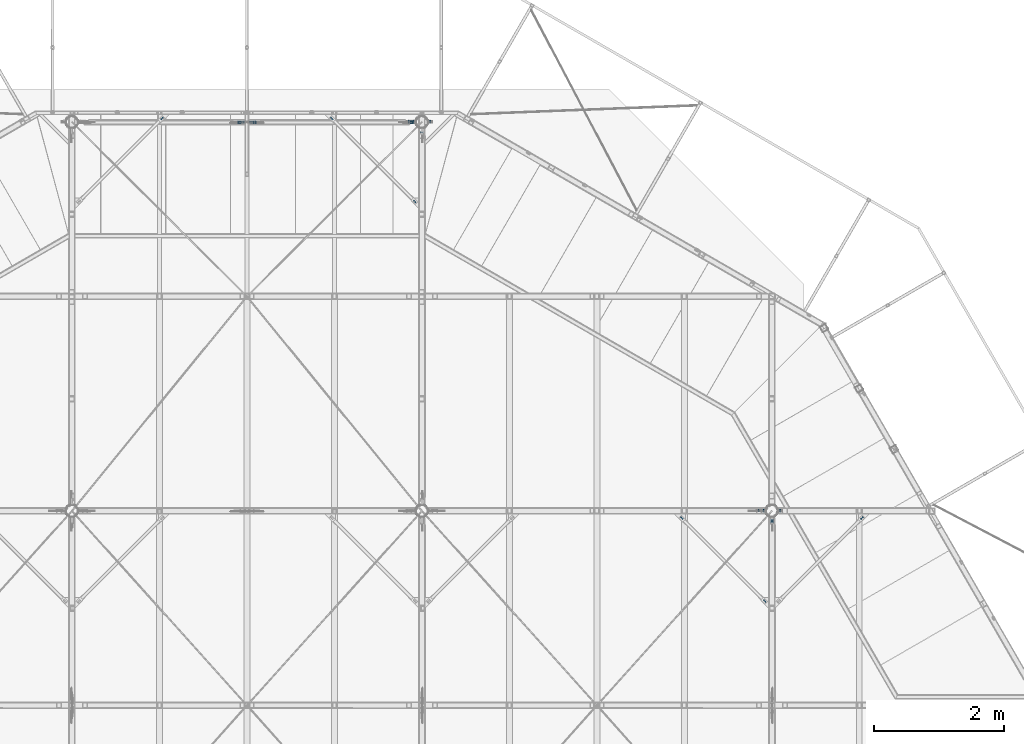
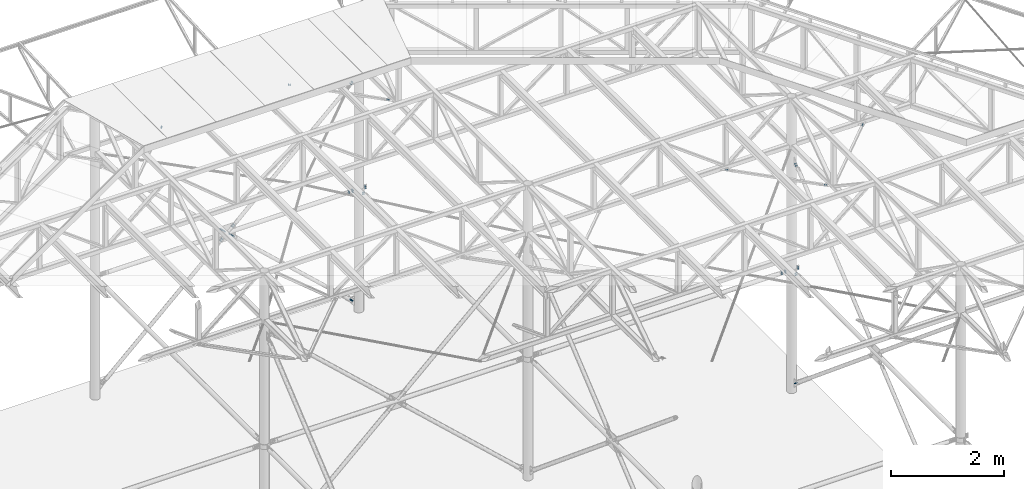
# One storey, part 124 of 132: 27 mechanical fasteners, 19 elements without a shape of their own.
"""IFC2X3 building model written with IfcOpenShell, lengths in millimetres."""

from ifc_helpers import new_model, si_unit, frame, origin_with_axes, origin_2d_with_axis, place, context, subcontext, project, spatial, polyline, circle, outline, extrude, source, transform, mapped, material, type_object, element, aggregate, save


model = new_model("IFC2X3")

# Units and contexts
model_context = context("Model", 3, precision=1e-05, world=origin_with_axes())
body_context = subcontext(model_context, "Body", "Model", "MODEL_VIEW")
ifc_project = project(units=[si_unit("LENGTHUNIT", "METRE", prefix="MILLI"), si_unit("AREAUNIT", "SQUARE_METRE"), si_unit("VOLUMEUNIT", "CUBIC_METRE"), si_unit("MASSUNIT", "GRAM", prefix="KILO"), si_unit("TIMEUNIT", "SECOND"), si_unit("PLANEANGLEUNIT", "RADIAN"), si_unit("SOLIDANGLEUNIT", "STERADIAN"), si_unit("THERMODYNAMICTEMPERATUREUNIT", "DEGREE_CELSIUS"), si_unit("LUMINOUSINTENSITYUNIT", "LUMEN")], contexts=[model_context])

# Site, building, storey
site_placement = place(None, origin_with_axes())
site = spatial("IfcSite", under=ifc_project, at=site_placement, Name="Budowa", CompositionType="ELEMENT")
building_placement = place(site_placement, origin_with_axes())
building = spatial("IfcBuilding", under=site, at=building_placement, Name="Undefined", CompositionType="ELEMENT")
storey_placement = place(building_placement, origin_with_axes())
storey = spatial("IfcBuildingStorey", under=building, at=storey_placement, Name="Undefined", CompositionType="ELEMENT", Elevation=0.0)

# Assembly, mechanical fastener
assembly_1_placement = place(storey_placement, origin_with_axes())
assembly_1 = element("IfcElementAssembly", 1, at=assembly_1_placement, inside=storey, Name="Steel Assembly", AssemblyPlace="NOTDEFINED", PredefinedType="RIGID_FRAME")
ifc_material = material(Name="Undefined")
discrete_accessory_type = type_object("IfcDiscreteAccessoryType", Name="Bolt assembly")
shared_shape_1 = source(origin_with_axes(), body_context, "Body", "SweptSolid", [
    extrude(circle(Radius=9.5, at=origin_2d_with_axis()), frame((0.0, -2.10099750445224, 0.0), z_axis=(0.0, 1.0, 0.0), x_axis=(1.0, 0.0, 0.0)), (0.0, 0.0, 1.0), 8.1),
    extrude(circle(Radius=9.5, at=origin_2d_with_axis()), frame((0.0, -9.9, 0.0), z_axis=(0.0, 1.0, 0.0), x_axis=(1.0, 0.0, 0.0)), (0.0, 0.0, 1.0), 8.0),
    extrude(outline(polyline([(13.85640646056, 0.0), (6.92820323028, 12.0000000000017), (-6.92820323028, 12.0000000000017), (-13.85640646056, 0.0), (-6.92820323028, -12.0000000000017), (6.92820323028, -12.0000000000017), (13.85640646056, 0.0)])), frame((0.0, -23.0, 0.0), z_axis=(0.0, 1.0, 0.0), x_axis=(1.0, 0.0, 0.0)), (0.0, 0.0, 1.0), 10.0),
    extrude(circle(Radius=8.0, at=origin_2d_with_axis()), frame((0.0, -13.0, 0.0), z_axis=(0.0, 1.0, 0.0), x_axis=(1.0, 0.0, 0.0)), (0.0, 0.0, 1.0), 45.0),
    extrude(circle(Radius=15.0, at=origin_2d_with_axis()), frame((0.0, -13.0, 0.0), z_axis=(0.0, 1.0, 0.0), x_axis=(1.0, 0.0, 0.0)), (0.0, 0.0, 1.0), 3.0),
    extrude(circle(Radius=15.0, at=origin_2d_with_axis()), frame((0.0, 5.99900249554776, 0.0), z_axis=(0.0, 1.0, 0.0), x_axis=(1.0, 0.0, 0.0)), (0.0, 0.0, 1.0), 3.0),
    extrude(outline(polyline([(13.85640646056, 0.0), (6.92820323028, 12.0000000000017), (-6.92820323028, 12.0000000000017), (-13.85640646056, 0.0), (-6.92820323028, -12.0000000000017), (6.92820323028, -12.0000000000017), (13.85640646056, 0.0)])), frame((0.0, 8.99900249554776, 0.0), z_axis=(0.0, 1.0, 0.0), x_axis=(1.0, 0.0, 0.0)), (0.0, 0.0, 1.0), 13.0),
])
mechanical_fastener_1_placement = place(assembly_1_placement, frame((14684.3261492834, 23997.9999976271, 12480.2077566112), z_axis=(0.67855182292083, 0.0, -0.734552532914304), x_axis=(-0.734552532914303, 0.0, -0.67855182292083)))
mechanical_fastener_1 = element("IfcMechanicalFastener", 2, at=mechanical_fastener_1_placement, type_object=discrete_accessory_type, material=ifc_material, Name="Bolt assembly", NominalDiameter=16.0, NominalLength=45.0, context=body_context, shape_type="MappedRepresentation", body=[
    mapped(shared_shape_1, transform((0.0, 0.0, 0.0))),
    mapped(shared_shape_1, transform((40.0000000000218, 0.0, -1.81898940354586e-12))),
])
aggregate(assembly_1, [mechanical_fastener_1])

assembly_2_placement = place(storey_placement, origin_with_axes())
assembly_2 = element("IfcElementAssembly", 3, at=assembly_2_placement, inside=storey, Name="Steel Assembly", AssemblyPlace="NOTDEFINED", PredefinedType="RIGID_FRAME")
mechanical_fastener_2_placement = place(assembly_2_placement, frame((14684.3261497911, 23997.9999973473, 7751.7929987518), z_axis=(-0.67855182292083, 0.0, -0.734552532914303), x_axis=(-0.734552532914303, 0.0, 0.67855182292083)))
mechanical_fastener_2 = element("IfcMechanicalFastener", 4, at=mechanical_fastener_2_placement, type_object=discrete_accessory_type, material=ifc_material, Name="Bolt assembly", NominalDiameter=16.0, NominalLength=45.0, context=body_context, shape_type="MappedRepresentation", body=[
    mapped(shared_shape_1, transform((0.0, 0.0, 0.0))),
    mapped(shared_shape_1, transform((40.0000000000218, 0.0, -1.81898940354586e-12))),
])

assembly_3_placement = place(storey_placement, origin_with_axes())
assembly_3 = element("IfcElementAssembly", 5, at=assembly_3_placement, inside=storey, Name="Steel Assembly", AssemblyPlace="NOTDEFINED", PredefinedType="RIGID_FRAME")
shared_shape_2 = source(origin_with_axes(), body_context, "Body", "SweptSolid", [
    extrude(circle(Radius=9.5, at=origin_2d_with_axis()), frame((0.0, -2.1, 0.0), z_axis=(0.0, 1.0, 0.0), x_axis=(1.0, 0.0, 0.0)), (0.0, 0.0, 1.0), 8.1),
    extrude(circle(Radius=9.5, at=origin_2d_with_axis()), frame((0.0, -11.9, 0.0), z_axis=(0.0, 1.0, 0.0), x_axis=(1.0, 0.0, 0.0)), (0.0, 0.0, 1.0), 8.0),
    extrude(outline(polyline([(13.85640646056, 0.0), (6.92820323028, 12.0000000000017), (-6.92820323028, 12.0000000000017), (-13.85640646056, 0.0), (-6.92820323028, -12.0000000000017), (6.92820323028, -12.0000000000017), (13.85640646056, 0.0)])), frame((0.0, -25.0, 0.0), z_axis=(0.0, 1.0, 0.0), x_axis=(1.0, 0.0, 0.0)), (0.0, 0.0, 1.0), 10.0),
    extrude(circle(Radius=8.0, at=origin_2d_with_axis()), frame((0.0, -15.0, 0.0), z_axis=(0.0, 1.0, 0.0), x_axis=(1.0, 0.0, 0.0)), (0.0, 0.0, 1.0), 45.0),
    extrude(circle(Radius=15.0, at=origin_2d_with_axis()), frame((0.0, -15.0, 0.0), z_axis=(0.0, 1.0, 0.0), x_axis=(1.0, 0.0, 0.0)), (0.0, 0.0, 1.0), 3.0),
    extrude(circle(Radius=15.0, at=origin_2d_with_axis()), frame((0.0, 6.0, 0.0), z_axis=(0.0, 1.0, 0.0), x_axis=(1.0, 0.0, 0.0)), (0.0, 0.0, 1.0), 3.0),
    extrude(outline(polyline([(13.85640646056, 0.0), (6.92820323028, 12.0000000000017), (-6.92820323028, 12.0000000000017), (-13.85640646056, 0.0), (-6.92820323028, -12.0000000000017), (6.92820323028, -12.0000000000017), (13.85640646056, 0.0)])), frame((0.0, 9.0, 0.0), z_axis=(0.0, 1.0, 0.0), x_axis=(1.0, 0.0, 0.0)), (0.0, 0.0, 1.0), 13.0),
])
mechanical_fastener_3_placement = place(assembly_3_placement, frame((14684.3261492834, 23997.9999976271, 12480.2077566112), z_axis=(0.67855182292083, 0.0, -0.734552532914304), x_axis=(-0.734552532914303, 0.0, -0.67855182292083)))
mechanical_fastener_3 = element("IfcMechanicalFastener", 6, at=mechanical_fastener_3_placement, type_object=discrete_accessory_type, material=ifc_material, Name="Bolt assembly", NominalDiameter=16.0, NominalLength=45.0, context=body_context, shape_type="MappedRepresentation", body=[
    mapped(shared_shape_2, transform((0.0, 0.0, 0.0))),
    mapped(shared_shape_2, transform((40.0000000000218, 0.0, -1.81898940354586e-12))),
])

assembly_4_placement = place(storey_placement, origin_with_axes())
assembly_4 = element("IfcElementAssembly", 7, at=assembly_4_placement, inside=storey, Name="Steel Assembly", AssemblyPlace="NOTDEFINED", PredefinedType="RIGID_FRAME")
mechanical_fastener_4_placement = place(assembly_4_placement, frame((14684.3261497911, 23997.9999973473, 7751.7929987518), z_axis=(-0.67855182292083, 0.0, -0.734552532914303), x_axis=(-0.734552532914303, 0.0, 0.67855182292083)))
mechanical_fastener_4 = element("IfcMechanicalFastener", 8, at=mechanical_fastener_4_placement, type_object=discrete_accessory_type, material=ifc_material, Name="Bolt assembly", NominalDiameter=16.0, NominalLength=45.0, context=body_context, shape_type="MappedRepresentation", body=[
    mapped(shared_shape_2, transform((0.0, 0.0, 0.0))),
    mapped(shared_shape_2, transform((40.0000000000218, 0.0, -1.81898940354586e-12))),
])

assembly_5_placement = place(storey_placement, origin_with_axes())
assembly_5 = element("IfcElementAssembly", 9, at=assembly_5_placement, inside=storey, Name="Steel Assembly", AssemblyPlace="NOTDEFINED", PredefinedType="RIGID_FRAME")
shared_shape_3 = source(origin_with_axes(), body_context, "Body", "SweptSolid", [
    extrude(circle(Radius=9.5, at=origin_2d_with_axis()), frame((0.0, -4.09999999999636, 0.0), z_axis=(0.0, 1.0, 0.0), x_axis=(1.0, 0.0, 0.0)), (0.0, 0.0, 1.0), 8.1),
    extrude(circle(Radius=9.5, at=origin_2d_with_axis()), frame((0.0, -11.9, 0.0), z_axis=(0.0, 1.0, 0.0), x_axis=(1.0, 0.0, 0.0)), (0.0, 0.0, 1.0), 8.0),
    extrude(outline(polyline([(13.85640646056, 0.0), (6.92820323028, 12.0000000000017), (-6.92820323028, 12.0000000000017), (-13.85640646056, 0.0), (-6.92820323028, -12.0000000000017), (6.92820323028, -12.0000000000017), (13.85640646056, 0.0)])), frame((0.0, -25.0, 0.0), z_axis=(0.0, 1.0, 0.0), x_axis=(1.0, 0.0, 0.0)), (0.0, 0.0, 1.0), 10.0),
    extrude(circle(Radius=8.0, at=origin_2d_with_axis()), frame((0.0, -15.0, 0.0), z_axis=(0.0, 1.0, 0.0), x_axis=(1.0, 0.0, 0.0)), (0.0, 0.0, 1.0), 40.0),
    extrude(circle(Radius=15.0, at=origin_2d_with_axis()), frame((0.0, -15.0, 0.0), z_axis=(0.0, 1.0, 0.0), x_axis=(1.0, 0.0, 0.0)), (0.0, 0.0, 1.0), 3.0),
    extrude(circle(Radius=15.0, at=origin_2d_with_axis()), frame((0.0, 4.0, 0.0), z_axis=(0.0, 1.0, 0.0), x_axis=(1.0, 0.0, 0.0)), (0.0, 0.0, 1.0), 3.0),
    extrude(outline(polyline([(13.85640646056, 0.0), (6.92820323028, 12.0000000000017), (-6.92820323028, 12.0000000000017), (-13.85640646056, 0.0), (-6.92820323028, -12.0000000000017), (6.92820323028, -12.0000000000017), (13.85640646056, 0.0)])), frame((0.0, 7.0, 0.0), z_axis=(0.0, 1.0, 0.0), x_axis=(1.0, 0.0, 0.0)), (0.0, 0.0, 1.0), 13.0),
])
mechanical_fastener_5_placement = place(assembly_5_placement, frame((12018.9139021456, 23997.9999971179, 10018.0008231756), z_axis=(0.67855182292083, 0.0, -0.734552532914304), x_axis=(-0.734552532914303, 0.0, -0.67855182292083)))
mechanical_fastener_5 = element("IfcMechanicalFastener", 10, at=mechanical_fastener_5_placement, type_object=discrete_accessory_type, material=ifc_material, Name="Bolt assembly", NominalDiameter=16.0, NominalLength=40.0, context=body_context, shape_type="MappedRepresentation", body=[
    mapped(shared_shape_3, transform((0.0, 0.0, 0.0))),
    mapped(shared_shape_3, transform((40.0000000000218, 0.0, -1.81898940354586e-12))),
])
aggregate(assembly_5, [mechanical_fastener_5])

# Mechanical fastener
mechanical_fastener_6_placement = place(assembly_4_placement, frame((12231.0887636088, 23997.9999971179, 10018.0008271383), z_axis=(0.678551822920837, 0.0, 0.734552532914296), x_axis=(0.734552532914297, 0.0, -0.678551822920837)))
mechanical_fastener_6 = element("IfcMechanicalFastener", 11, at=mechanical_fastener_6_placement, type_object=discrete_accessory_type, material=ifc_material, Name="Bolt assembly", NominalDiameter=16.0, NominalLength=40.0, context=body_context, shape_type="MappedRepresentation", body=[
    mapped(shared_shape_3, transform((0.0, 0.0, 0.0))),
    mapped(shared_shape_3, transform((40.0000000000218, 0.0, -1.81898940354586e-12))),
])

aggregate(assembly_4, [mechanical_fastener_4, mechanical_fastener_6])

# Assembly, mechanical fastener
assembly_6_placement = place(storey_placement, origin_with_axes())
assembly_6 = element("IfcElementAssembly", 12, at=assembly_6_placement, inside=storey, Name="Steel Assembly", AssemblyPlace="NOTDEFINED", PredefinedType="RIGID_FRAME")
mechanical_fastener_7_placement = place(assembly_6_placement, frame((12018.913903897, 23997.9999968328, 10213.9999310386), z_axis=(-0.67855182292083, 0.0, -0.734552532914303), x_axis=(-0.734552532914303, 0.0, 0.67855182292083)))
mechanical_fastener_7 = element("IfcMechanicalFastener", 13, at=mechanical_fastener_7_placement, type_object=discrete_accessory_type, material=ifc_material, Name="Bolt assembly", NominalDiameter=16.0, NominalLength=40.0, context=body_context, shape_type="MappedRepresentation", body=[
    mapped(shared_shape_3, transform((0.0, 0.0, 0.0))),
    mapped(shared_shape_3, transform((40.0000000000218, 0.0, -1.81898940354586e-12))),
])
aggregate(assembly_6, [mechanical_fastener_7])

# Mechanical fastener
mechanical_fastener_8_placement = place(assembly_3_placement, frame((12231.0887653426, 23997.9999968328, 10213.9999302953), z_axis=(-0.678551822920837, 0.0, 0.734552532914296), x_axis=(0.734552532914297, 0.0, 0.678551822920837)))
mechanical_fastener_8 = element("IfcMechanicalFastener", 14, at=mechanical_fastener_8_placement, type_object=discrete_accessory_type, material=ifc_material, Name="Bolt assembly", NominalDiameter=16.0, NominalLength=40.0, context=body_context, shape_type="MappedRepresentation", body=[
    mapped(shared_shape_3, transform((0.0, 0.0, 0.0))),
    mapped(shared_shape_3, transform((40.0000000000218, 0.0, -1.81898940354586e-12))),
])

aggregate(assembly_3, [mechanical_fastener_3, mechanical_fastener_8])

# Assembly, mechanical fastener
assembly_7_placement = place(storey_placement, origin_with_axes())
assembly_7 = element("IfcElementAssembly", 15, at=assembly_7_placement, inside=storey, Name="Steel Assembly", AssemblyPlace="NOTDEFINED", PredefinedType="RIGID_FRAME")
shared_shape_4 = source(origin_with_axes(), body_context, "Body", "SweptSolid", [
    extrude(circle(Radius=9.0, at=origin_2d_with_axis()), frame((0.0, 0.0999999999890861, 0.0), z_axis=(0.0, 1.0, 0.0), x_axis=(1.0, 0.0, 0.0)), (0.0, 0.0, 1.0), 8.0),
    extrude(circle(Radius=9.0, at=origin_2d_with_axis()), frame((0.0, 11.9000000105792, 0.0), z_axis=(0.0, 1.0, 0.0), x_axis=(1.0, 0.0, 0.0)), (0.0, 0.0, 1.0), 8.1),
    extrude(outline(polyline([(13.85640646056, 0.0), (6.92820323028, 12.0000000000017), (-6.92820323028, 12.0000000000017), (-13.85640646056, 0.0), (-6.92820323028, -12.0000000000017), (6.92820323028, -12.0000000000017), (13.85640646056, 0.0)])), frame((0.0, -13.0, 0.0), z_axis=(0.0, 1.0, 0.0), x_axis=(1.0, 0.0, 0.0)), (0.0, 0.0, 1.0), 10.0),
    extrude(circle(Radius=8.0, at=origin_2d_with_axis()), frame((0.0, -2.99999999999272, 0.0), z_axis=(0.0, 1.0, 0.0), x_axis=(1.0, 0.0, 0.0)), (0.0, 0.0, 1.0), 45.0),
    extrude(circle(Radius=15.0, at=origin_2d_with_axis()), frame((0.0, -2.99999999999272, 0.0), z_axis=(0.0, 1.0, 0.0), x_axis=(1.0, 0.0, 0.0)), (0.0, 0.0, 1.0), 3.0),
    extrude(circle(Radius=15.0, at=origin_2d_with_axis()), frame((0.0, 20.0000000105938, 0.0), z_axis=(0.0, 1.0, 0.0), x_axis=(1.0, 0.0, 0.0)), (0.0, 0.0, 1.0), 3.0),
    extrude(outline(polyline([(13.85640646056, 0.0), (6.92820323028, 12.0000000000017), (-6.92820323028, 12.0000000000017), (-13.85640646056, 0.0), (-6.92820323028, -12.0000000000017), (6.92820323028, -12.0000000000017), (13.85640646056, 0.0)])), frame((0.0, 23.0000000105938, 0.0), z_axis=(0.0, 1.0, 0.0), x_axis=(1.0, 0.0, 0.0)), (0.0, 0.0, 1.0), 13.0),
])
mechanical_fastener_9_placement = place(assembly_7_placement, frame((14953.1367126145, 23990.000000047, 10096.0003779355), z_axis=(-1.0, 0.0, 0.0), x_axis=(0.0, 0.0, 1.0)))
mechanical_fastener_9 = element("IfcMechanicalFastener", 16, at=mechanical_fastener_9_placement, type_object=discrete_accessory_type, material=ifc_material, Name="Bolt assembly", NominalDiameter=16.0, NominalLength=45.0, context=body_context, shape_type="MappedRepresentation", body=[
    mapped(shared_shape_4, transform((0.0, 0.0, 0.0))),
    mapped(shared_shape_4, transform((40.0000000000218, 0.0, -1.81898940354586e-12))),
])

assembly_8_placement = place(storey_placement, origin_with_axes())
assembly_8 = element("IfcElementAssembly", 17, at=assembly_8_placement, inside=storey, Name="Steel Assembly", AssemblyPlace="NOTDEFINED", PredefinedType="RIGID_FRAME")
mechanical_fastener_10_placement = place(assembly_8_placement, frame((20353.1367126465, 17990.000000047, 10096.0003779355), z_axis=(-1.0, 0.0, 0.0), x_axis=(0.0, 0.0, 1.0)))
mechanical_fastener_10 = element("IfcMechanicalFastener", 18, at=mechanical_fastener_10_placement, type_object=discrete_accessory_type, material=ifc_material, Name="Bolt assembly", NominalDiameter=16.0, NominalLength=45.0, context=body_context, shape_type="MappedRepresentation", body=[
    mapped(shared_shape_4, transform((0.0, 0.0, 0.0))),
    mapped(shared_shape_4, transform((40.0000000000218, 0.0, -1.81898940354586e-12))),
])

assembly_9_placement = place(storey_placement, origin_with_axes())
assembly_9 = element("IfcElementAssembly", 19, at=assembly_9_placement, inside=storey, Name="Steel Assembly", AssemblyPlace="NOTDEFINED", PredefinedType="RIGID_FRAME")
shared_shape_5 = source(origin_with_axes(), body_context, "Body", "SweptSolid", [
    extrude(circle(Radius=9.0, at=origin_2d_with_axis()), frame((0.0, -4.09999999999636, 0.0), z_axis=(0.0, 1.0, 0.0), x_axis=(1.0, 0.0, 0.0)), (0.0, 0.0, 1.0), 8.1),
    extrude(circle(Radius=9.0, at=origin_2d_with_axis()), frame((0.0, -11.9, 0.0), z_axis=(0.0, 1.0, 0.0), x_axis=(1.0, 0.0, 0.0)), (0.0, 0.0, 1.0), 8.0),
    extrude(outline(polyline([(13.85640646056, 0.0), (6.92820323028, 12.0000000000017), (-6.92820323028, 12.0000000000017), (-13.85640646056, 0.0), (-6.92820323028, -12.0000000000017), (6.92820323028, -12.0000000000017), (13.85640646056, 0.0)])), frame((0.0, -25.0, 0.0), z_axis=(0.0, 1.0, 0.0), x_axis=(1.0, 0.0, 0.0)), (0.0, 0.0, 1.0), 10.0),
    extrude(circle(Radius=8.0, at=origin_2d_with_axis()), frame((0.0, -15.0, 0.0), z_axis=(0.0, 1.0, 0.0), x_axis=(1.0, 0.0, 0.0)), (0.0, 0.0, 1.0), 40.0),
    extrude(circle(Radius=15.0, at=origin_2d_with_axis()), frame((0.0, -15.0, 0.0), z_axis=(0.0, 1.0, 0.0), x_axis=(1.0, 0.0, 0.0)), (0.0, 0.0, 1.0), 3.0),
    extrude(circle(Radius=15.0, at=origin_2d_with_axis()), frame((0.0, 4.0, 0.0), z_axis=(0.0, 1.0, 0.0), x_axis=(1.0, 0.0, 0.0)), (0.0, 0.0, 1.0), 3.0),
    extrude(outline(polyline([(13.85640646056, 0.0), (6.92820323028, 12.0000000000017), (-6.92820323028, 12.0000000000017), (-13.85640646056, 0.0), (-6.92820323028, -12.0000000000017), (6.92820323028, -12.0000000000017), (13.85640646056, 0.0)])), frame((0.0, 7.0, 0.0), z_axis=(0.0, 1.0, 0.0), x_axis=(1.0, 0.0, 0.0)), (0.0, 0.0, 1.0), 13.0),
])
mechanical_fastener_11_placement = place(assembly_9_placement, frame((14824.9999972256, 23842.0920947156, 10116.0003779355), z_axis=(0.0, 0.0, -1.0), x_axis=(0.0, -1.0, 0.0)))
mechanical_fastener_11 = element("IfcMechanicalFastener", 20, at=mechanical_fastener_11_placement, type_object=discrete_accessory_type, material=ifc_material, Name="Bolt assembly", NominalDiameter=16.0, NominalLength=40.0, context=body_context, shape_type="MappedRepresentation", body=[
    mapped(shared_shape_5, transform((0.0, 0.0, -20.0))),
    mapped(shared_shape_5, transform((0.0, 0.0, 20.0))),
])
aggregate(assembly_9, [mechanical_fastener_11])

assembly_10_placement = place(storey_placement, origin_with_axes())
assembly_10 = element("IfcElementAssembly", 21, at=assembly_10_placement, inside=storey, Name="Steel Assembly", AssemblyPlace="NOTDEFINED", PredefinedType="RIGID_FRAME")
mechanical_fastener_12_placement = place(assembly_10_placement, frame((20224.9999972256, 17842.0920947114, 10116.0003779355), z_axis=(0.0, 0.0, -1.0), x_axis=(0.0, -1.0, 0.0)))
mechanical_fastener_12 = element("IfcMechanicalFastener", 22, at=mechanical_fastener_12_placement, type_object=discrete_accessory_type, material=ifc_material, Name="Bolt assembly", NominalDiameter=16.0, NominalLength=40.0, context=body_context, shape_type="MappedRepresentation", body=[
    mapped(shared_shape_5, transform((0.0, 0.0, -20.0))),
    mapped(shared_shape_5, transform((0.0, 0.0, 20.0))),
])
aggregate(assembly_10, [mechanical_fastener_12])

assembly_11_placement = place(storey_placement, origin_with_axes())
assembly_11 = element("IfcElementAssembly", 23, at=assembly_11_placement, inside=storey, Name="Steel Assembly", AssemblyPlace="NOTDEFINED", PredefinedType="RIGID_FRAME")
mechanical_fastener_13_placement = place(assembly_11_placement, frame((20225.0000000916, 17859.8220601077, 7739.23218545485), z_axis=(0.0, -0.63916553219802, -0.769069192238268), x_axis=(0.0, -0.76906919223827, 0.639165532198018)))
mechanical_fastener_13 = element("IfcMechanicalFastener", 24, at=mechanical_fastener_13_placement, type_object=discrete_accessory_type, material=ifc_material, Name="Bolt assembly", NominalDiameter=16.0, NominalLength=40.0, context=body_context, shape_type="MappedRepresentation", body=[
    mapped(shared_shape_5, transform((0.0, 0.0, 0.0))),
    mapped(shared_shape_5, transform((40.0000000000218, 0.0, -1.81898940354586e-12))),
])
aggregate(assembly_11, [mechanical_fastener_13])

assembly_12_placement = place(storey_placement, origin_with_axes())
assembly_12 = element("IfcElementAssembly", 25, at=assembly_12_placement, inside=storey, Name="Steel Assembly", AssemblyPlace="NOTDEFINED", PredefinedType="RIGID_FRAME")
mechanical_fastener_14_placement = place(assembly_12_placement, frame((20225.0000000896, 17859.822059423, 12492.7676156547), z_axis=(0.0, 0.639165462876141, -0.769069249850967), x_axis=(0.0, -0.769069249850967, -0.639165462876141)))
mechanical_fastener_14 = element("IfcMechanicalFastener", 26, at=mechanical_fastener_14_placement, type_object=discrete_accessory_type, material=ifc_material, Name="Bolt assembly", NominalDiameter=16.0, NominalLength=40.0, context=body_context, shape_type="MappedRepresentation", body=[
    mapped(shared_shape_5, transform((0.0, 0.0, 0.0))),
    mapped(shared_shape_5, transform((40.0000000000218, 0.0, -1.81898940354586e-12))),
])
aggregate(assembly_12, [mechanical_fastener_14])

# Mechanical fastener
mechanical_fastener_15_placement = place(assembly_2_placement, frame((14684.3261497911, 23999.9999973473, 7751.79299875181), z_axis=(-0.67855182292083, 0.0, -0.734552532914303), x_axis=(-0.734552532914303, 0.0, 0.67855182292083)))
mechanical_fastener_15 = element("IfcMechanicalFastener", 27, at=mechanical_fastener_15_placement, type_object=discrete_accessory_type, material=ifc_material, Name="Bolt assembly", NominalDiameter=16.0, NominalLength=40.0, context=body_context, shape_type="MappedRepresentation", body=[
    mapped(shared_shape_5, transform((0.0, 0.0, 0.0))),
    mapped(shared_shape_5, transform((40.0000000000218, 0.0, -1.81898940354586e-12))),
])

mechanical_fastener_16_placement = place(assembly_2_placement, frame((12174.3756759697, 23999.9999977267, 10070.3902305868), z_axis=(0.678551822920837, 0.0, 0.734552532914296), x_axis=(0.734552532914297, 0.0, -0.678551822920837)))
mechanical_fastener_16 = element("IfcMechanicalFastener", 28, at=mechanical_fastener_16_placement, type_object=discrete_accessory_type, material=ifc_material, Name="Bolt assembly", NominalDiameter=16.0, NominalLength=40.0, context=body_context, shape_type="MappedRepresentation", body=[
    mapped(shared_shape_5, transform((0.0, 0.0, 0.0))),
    mapped(shared_shape_5, transform((40.0000000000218, 0.0, -1.81898940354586e-12))),
])

aggregate(assembly_2, [mechanical_fastener_2, mechanical_fastener_15, mechanical_fastener_16])

# Assembly, mechanical fastener
assembly_13_placement = place(storey_placement, origin_with_axes())
assembly_13 = element("IfcElementAssembly", 29, at=assembly_13_placement, inside=storey, Name="Steel Assembly", AssemblyPlace="NOTDEFINED", PredefinedType="RIGID_FRAME")
mechanical_fastener_17_placement = place(assembly_13_placement, frame((12075.6269936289, 23999.9999975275, 10161.6105256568), z_axis=(-0.67855182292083, 0.0, -0.734552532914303), x_axis=(-0.734552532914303, 0.0, 0.67855182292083)))
mechanical_fastener_17 = element("IfcMechanicalFastener", 30, at=mechanical_fastener_17_placement, type_object=discrete_accessory_type, material=ifc_material, Name="Bolt assembly", NominalDiameter=16.0, NominalLength=40.0, context=body_context, shape_type="MappedRepresentation", body=[
    mapped(shared_shape_5, transform((0.0, 0.0, 0.0))),
    mapped(shared_shape_5, transform((40.0000000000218, 0.0, -1.81898940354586e-12))),
])
aggregate(assembly_13, [mechanical_fastener_17])

# Mechanical fastener
shared_shape_6 = source(origin_with_axes(), body_context, "Body", "SweptSolid", [
    extrude(circle(Radius=9.0, at=origin_2d_with_axis()), frame((0.0, 0.0999999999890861, 0.0), z_axis=(0.0, 1.0, 0.0), x_axis=(1.0, 0.0, 0.0)), (0.0, 0.0, 1.0), 8.0),
    extrude(circle(Radius=9.0, at=origin_2d_with_axis()), frame((0.0, 7.9000007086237, 0.0), z_axis=(0.0, 1.0, 0.0), x_axis=(1.0, 0.0, 0.0)), (0.0, 0.0, 1.0), 8.1),
    extrude(outline(polyline([(13.85640646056, 0.0), (6.92820323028, 12.0000000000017), (-6.92820323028, 12.0000000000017), (-13.85640646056, 0.0), (-6.92820323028, -12.0000000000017), (6.92820323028, -12.0000000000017), (13.85640646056, 0.0)])), frame((0.0, -13.0, 0.0), z_axis=(0.0, 1.0, 0.0), x_axis=(1.0, 0.0, 0.0)), (0.0, 0.0, 1.0), 10.0),
    extrude(circle(Radius=8.0, at=origin_2d_with_axis()), frame((0.0, -2.99999999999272, 0.0), z_axis=(0.0, 1.0, 0.0), x_axis=(1.0, 0.0, 0.0)), (0.0, 0.0, 1.0), 40.0),
    extrude(circle(Radius=15.0, at=origin_2d_with_axis()), frame((0.0, -2.99999999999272, 0.0), z_axis=(0.0, 1.0, 0.0), x_axis=(1.0, 0.0, 0.0)), (0.0, 0.0, 1.0), 3.0),
    extrude(circle(Radius=15.0, at=origin_2d_with_axis()), frame((0.0, 16.0000007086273, 0.0), z_axis=(0.0, 1.0, 0.0), x_axis=(1.0, 0.0, 0.0)), (0.0, 0.0, 1.0), 3.0),
    extrude(outline(polyline([(13.85640646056, 0.0), (6.92820323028, 12.0000000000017), (-6.92820323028, 12.0000000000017), (-13.85640646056, 0.0), (-6.92820323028, -12.0000000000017), (6.92820323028, -12.0000000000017), (13.85640646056, 0.0)])), frame((0.0, 19.0000007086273, 0.0), z_axis=(0.0, 1.0, 0.0), x_axis=(1.0, 0.0, 0.0)), (0.0, 0.0, 1.0), 13.0),
])
mechanical_fastener_18_placement = place(assembly_7_placement, frame((14621.863305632, 23993.9999994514, 10096.0003779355), z_axis=(-1.0, 0.0, 0.0), x_axis=(0.0, 0.0, 1.0)))
mechanical_fastener_18 = element("IfcMechanicalFastener", 31, at=mechanical_fastener_18_placement, type_object=discrete_accessory_type, material=ifc_material, Name="Bolt assembly", NominalDiameter=16.0, NominalLength=40.0, context=body_context, shape_type="MappedRepresentation", body=[
    mapped(shared_shape_6, transform((0.0, 0.0, 0.0))),
    mapped(shared_shape_6, transform((40.0000000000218, 0.0, -1.81898940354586e-12))),
])

aggregate(assembly_7, [mechanical_fastener_18, mechanical_fastener_9])

mechanical_fastener_19_placement = place(assembly_8_placement, frame((20021.8633056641, 17993.9999994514, 10096.0003779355), z_axis=(-1.0, 0.0, 0.0), x_axis=(0.0, 0.0, 1.0)))
mechanical_fastener_19 = element("IfcMechanicalFastener", 32, at=mechanical_fastener_19_placement, type_object=discrete_accessory_type, material=ifc_material, Name="Bolt assembly", NominalDiameter=16.0, NominalLength=40.0, context=body_context, shape_type="MappedRepresentation", body=[
    mapped(shared_shape_6, transform((0.0, 0.0, 0.0))),
    mapped(shared_shape_6, transform((40.0000000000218, 0.0, -1.81898940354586e-12))),
])

aggregate(assembly_8, [mechanical_fastener_19, mechanical_fastener_10])

# Assembly, mechanical fastener
assembly_14_placement = place(storey_placement, origin_with_axes())
assembly_14 = element("IfcElementAssembly", 33, at=assembly_14_placement, inside=storey, Name="Steel Assembly", AssemblyPlace="NOTDEFINED", PredefinedType="RIGID_FRAME")
shared_shape_7 = source(origin_with_axes(), body_context, "Body", "SweptSolid", [
    extrude(circle(Radius=9.0, at=origin_2d_with_axis()), frame((0.0, 11.9000000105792, 0.0), z_axis=(0.0, 1.0, 0.0), x_axis=(1.0, 0.0, 0.0)), (0.0, 0.0, 1.0), 8.1),
    extrude(circle(Radius=9.0, at=origin_2d_with_axis()), frame((0.0, 0.0999999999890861, 0.0), z_axis=(0.0, 1.0, 0.0), x_axis=(1.0, 0.0, 0.0)), (0.0, 0.0, 1.0), 8.0),
    extrude(outline(polyline([(13.85640646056, 0.0), (6.92820323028, 12.0000000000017), (-6.92820323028, 12.0000000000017), (-13.85640646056, 0.0), (-6.92820323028, -12.0000000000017), (6.92820323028, -12.0000000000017), (13.85640646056, 0.0)])), frame((0.0, -13.0, 0.0), z_axis=(0.0, 1.0, 0.0), x_axis=(1.0, 0.0, 0.0)), (0.0, 0.0, 1.0), 10.0),
    extrude(circle(Radius=8.0, at=origin_2d_with_axis()), frame((0.0, -2.99999999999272, 0.0), z_axis=(0.0, 1.0, 0.0), x_axis=(1.0, 0.0, 0.0)), (0.0, 0.0, 1.0), 45.0),
    extrude(circle(Radius=15.0, at=origin_2d_with_axis()), frame((0.0, -2.99999999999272, 0.0), z_axis=(0.0, 1.0, 0.0), x_axis=(1.0, 0.0, 0.0)), (0.0, 0.0, 1.0), 3.0),
    extrude(circle(Radius=15.0, at=origin_2d_with_axis()), frame((0.0, 20.0000000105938, 0.0), z_axis=(0.0, 1.0, 0.0), x_axis=(1.0, 0.0, 0.0)), (0.0, 0.0, 1.0), 3.0),
    extrude(outline(polyline([(13.85640646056, 0.0), (6.92820323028, 12.0000000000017), (-6.92820323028, 12.0000000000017), (-13.85640646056, 0.0), (-6.92820323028, -12.0000000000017), (6.92820323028, -12.0000000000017), (13.85640646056, 0.0)])), frame((0.0, 23.0000000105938, 0.0), z_axis=(0.0, 1.0, 0.0), x_axis=(1.0, 0.0, 0.0)), (0.0, 0.0, 1.0), 13.0),
])
mechanical_fastener_20_placement = place(assembly_14_placement, frame((14696.863305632, 23989.9999999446, 10096.0003779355), z_axis=(-1.0, 0.0, 0.0), x_axis=(0.0, 0.0, 1.0)))
mechanical_fastener_20 = element("IfcMechanicalFastener", 34, at=mechanical_fastener_20_placement, type_object=discrete_accessory_type, material=ifc_material, Name="Bolt assembly", NominalDiameter=16.0, NominalLength=45.0, context=body_context, shape_type="MappedRepresentation", body=[
    mapped(shared_shape_7, transform((0.0, 0.0, 0.0))),
    mapped(shared_shape_7, transform((40.0000000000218, 0.0, -1.81898940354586e-12))),
])
aggregate(assembly_14, [mechanical_fastener_20])

assembly_15_placement = place(storey_placement, origin_with_axes())
assembly_15 = element("IfcElementAssembly", 35, at=assembly_15_placement, inside=storey, Name="Steel Assembly", AssemblyPlace="NOTDEFINED", PredefinedType="RIGID_FRAME")
mechanical_fastener_21_placement = place(assembly_15_placement, frame((20096.8633056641, 17989.9999999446, 10096.0003779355), z_axis=(-1.0, 0.0, 0.0), x_axis=(0.0, 0.0, 1.0)))
mechanical_fastener_21 = element("IfcMechanicalFastener", 36, at=mechanical_fastener_21_placement, type_object=discrete_accessory_type, material=ifc_material, Name="Bolt assembly", NominalDiameter=16.0, NominalLength=45.0, context=body_context, shape_type="MappedRepresentation", body=[
    mapped(shared_shape_7, transform((0.0, 0.0, 0.0))),
    mapped(shared_shape_7, transform((40.0000000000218, 0.0, -1.81898940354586e-12))),
])
aggregate(assembly_15, [mechanical_fastener_21])

assembly_16_placement = place(storey_placement, origin_with_axes())
assembly_16 = element("IfcElementAssembly", 37, at=assembly_16_placement, inside=storey, Name="Steel Assembly", AssemblyPlace="NOTDEFINED", PredefinedType="RIGID_FRAME")
shared_shape_8 = source(origin_with_axes(), body_context, "Body", "SweptSolid", [
    extrude(circle(Radius=6.5, at=origin_2d_with_axis()), frame((0.0, -3.1, 0.0), z_axis=(0.0, 1.0, 0.0), x_axis=(1.0, 0.0, 0.0)), (0.0, 0.0, 1.0), 6.1),
    extrude(circle(Radius=6.5, at=origin_2d_with_axis()), frame((0.0, -8.9, 0.0), z_axis=(0.0, 1.0, 0.0), x_axis=(1.0, 0.0, 0.0)), (0.0, 0.0, 1.0), 6.0),
    extrude(outline(polyline([(10.39230484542, 0.0), (5.19615242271, 9.00000000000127), (-5.19615242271, 9.00000000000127), (-10.39230484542, 0.0), (-5.19615242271, -9.00000000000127), (5.19615242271, -9.00000000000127), (10.39230484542, 0.0)])), frame((0.0, -19.5, 0.0), z_axis=(0.0, 1.0, 0.0), x_axis=(1.0, 0.0, 0.0)), (0.0, 0.0, 1.0), 7.5),
    extrude(circle(Radius=6.0, at=origin_2d_with_axis()), frame((0.0, -12.0, 0.0), z_axis=(0.0, 1.0, 0.0), x_axis=(1.0, 0.0, 0.0)), (0.0, 0.0, 1.0), 35.0),
    extrude(circle(Radius=12.0, at=origin_2d_with_axis()), frame((0.0, -12.0, 0.0), z_axis=(0.0, 1.0, 0.0), x_axis=(1.0, 0.0, 0.0)), (0.0, 0.0, 1.0), 3.0),
    extrude(circle(Radius=12.0, at=origin_2d_with_axis()), frame((0.0, 3.0, 0.0), z_axis=(0.0, 1.0, 0.0), x_axis=(1.0, 0.0, 0.0)), (0.0, 0.0, 1.0), 3.0),
    extrude(outline(polyline([(10.96965511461, 0.0), (5.484827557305, 9.50000000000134), (-5.484827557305, 9.50000000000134), (-10.96965511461, 0.0), (-5.484827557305, -9.50000000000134), (5.484827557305, -9.50000000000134), (10.96965511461, 0.0)])), frame((0.0, 6.0, 0.0), z_axis=(0.0, 1.0, 0.0), x_axis=(1.0, 0.0, 0.0)), (0.0, 0.0, 1.0), 10.0),
])
mechanical_fastener_22_placement = place(assembly_16_placement, frame((10825.6446590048, 24065.5446591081, 12824.0), z_axis=(0.707106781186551, -0.707106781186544, 0.0), x_axis=(-0.70710678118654, -0.707106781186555, 0.0)))
mechanical_fastener_22 = element("IfcMechanicalFastener", 38, at=mechanical_fastener_22_placement, type_object=discrete_accessory_type, material=ifc_material, Name="Bolt assembly", NominalDiameter=12.0, NominalLength=35.0, context=body_context, shape_type="MappedRepresentation", body=[
    mapped(shared_shape_8, transform((0.0, 0.0, 0.0))),
    mapped(shared_shape_8, transform((29.9999999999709, 0.0, -1.16415321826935e-10))),
])
aggregate(assembly_16, [mechanical_fastener_22])

# Assembly, mechanical fasteners
assembly_17_placement = place(storey_placement, origin_with_axes())
assembly_17 = element("IfcElementAssembly", 39, at=assembly_17_placement, inside=storey, Name="Steel Assembly", AssemblyPlace="NOTDEFINED", PredefinedType="RIGID_FRAME")
mechanical_fastener_23_placement = place(assembly_17_placement, frame((13424.3553409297, 24065.5446590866, 12824.0), z_axis=(0.707106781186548, 0.707106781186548, 0.0), x_axis=(0.707106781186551, -0.707106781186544, 0.0)))
mechanical_fastener_23 = element("IfcMechanicalFastener", 40, at=mechanical_fastener_23_placement, type_object=discrete_accessory_type, material=ifc_material, Name="Bolt assembly", NominalDiameter=12.0, NominalLength=35.0, context=body_context, shape_type="MappedRepresentation", body=[
    mapped(shared_shape_8, transform((0.0, 0.0, 0.0))),
    mapped(shared_shape_8, transform((29.9999999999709, 0.0, -1.16415321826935e-10))),
])
mechanical_fastener_24_placement = place(assembly_17_placement, frame((14725.6446590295, 22764.2553409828, 12824.0), z_axis=(-0.70710678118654, -0.707106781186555, 0.0), x_axis=(-0.707106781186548, 0.707106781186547, 0.0)))
mechanical_fastener_24 = element("IfcMechanicalFastener", 41, at=mechanical_fastener_24_placement, type_object=discrete_accessory_type, material=ifc_material, Name="Bolt assembly", NominalDiameter=12.0, NominalLength=35.0, context=body_context, shape_type="MappedRepresentation", body=[
    mapped(shared_shape_8, transform((0.0, 0.0, 0.0))),
    mapped(shared_shape_8, transform((29.9999999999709, 0.0, -1.16415321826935e-10))),
])
aggregate(assembly_17, [mechanical_fastener_23, mechanical_fastener_24])

# Assembly, mechanical fastener
assembly_18_placement = place(storey_placement, origin_with_axes())
assembly_18 = element("IfcElementAssembly", 42, at=assembly_18_placement, inside=storey, Name="Steel Assembly", AssemblyPlace="NOTDEFINED", PredefinedType="RIGID_FRAME")
mechanical_fastener_25_placement = place(assembly_18_placement, frame((21625.6446590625, 17900.6446591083, 12824.0), z_axis=(0.707106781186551, -0.707106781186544, 0.0), x_axis=(-0.70710678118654, -0.707106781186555, 0.0)))
mechanical_fastener_25 = element("IfcMechanicalFastener", 43, at=mechanical_fastener_25_placement, type_object=discrete_accessory_type, material=ifc_material, Name="Bolt assembly", NominalDiameter=12.0, NominalLength=35.0, context=body_context, shape_type="MappedRepresentation", body=[
    mapped(shared_shape_8, transform((0.0, 0.0, 0.0))),
    mapped(shared_shape_8, transform((29.9999999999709, 0.0, -1.16415321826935e-10))),
])
aggregate(assembly_18, [mechanical_fastener_25])

# Assembly, mechanical fasteners
assembly_19_placement = place(storey_placement, origin_with_axes())
assembly_19 = element("IfcElementAssembly", 44, at=assembly_19_placement, inside=storey, Name="Steel Assembly", AssemblyPlace="NOTDEFINED", PredefinedType="RIGID_FRAME")
mechanical_fastener_26_placement = place(assembly_19_placement, frame((18824.3553409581, 17900.6446590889, 12824.0), z_axis=(0.707106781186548, 0.707106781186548, 0.0), x_axis=(0.707106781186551, -0.707106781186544, 0.0)))
mechanical_fastener_26 = element("IfcMechanicalFastener", 45, at=mechanical_fastener_26_placement, type_object=discrete_accessory_type, material=ifc_material, Name="Bolt assembly", NominalDiameter=12.0, NominalLength=35.0, context=body_context, shape_type="MappedRepresentation", body=[
    mapped(shared_shape_8, transform((0.0, 0.0, 0.0))),
    mapped(shared_shape_8, transform((29.9999999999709, 0.0, -1.16415321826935e-10))),
])
mechanical_fastener_27_placement = place(assembly_19_placement, frame((20125.6446590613, 16599.3553409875, 12824.0), z_axis=(-0.70710678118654, -0.707106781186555, 0.0), x_axis=(-0.707106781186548, 0.707106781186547, 0.0)))
mechanical_fastener_27 = element("IfcMechanicalFastener", 46, at=mechanical_fastener_27_placement, type_object=discrete_accessory_type, material=ifc_material, Name="Bolt assembly", NominalDiameter=12.0, NominalLength=35.0, context=body_context, shape_type="MappedRepresentation", body=[
    mapped(shared_shape_8, transform((0.0, 0.0, 0.0))),
    mapped(shared_shape_8, transform((29.9999999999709, 0.0, -1.16415321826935e-10))),
])
aggregate(assembly_19, [mechanical_fastener_26, mechanical_fastener_27])

save(model, "model.ifc")
